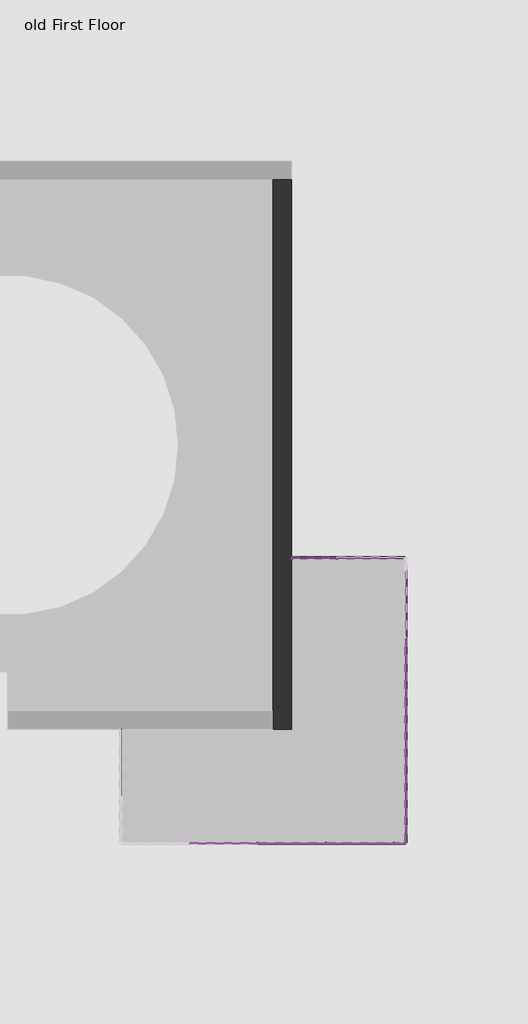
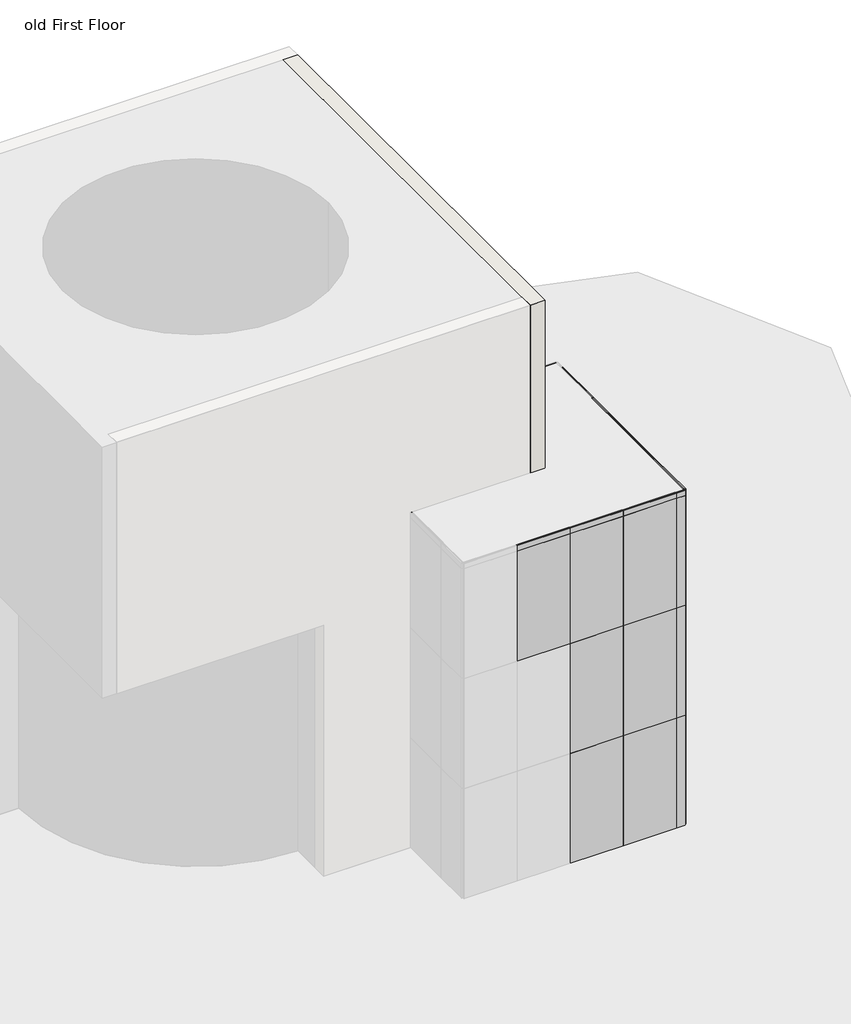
# One storey, part 2 of 4: 89 members, 35 plates, 1 wall.
"""IFC4 building model written with IfcOpenShell, lengths in millimetres."""

from ifc_helpers import new_model, si_unit, origin, place, context, project, spatial, faceted_brep, transform, mapped, element, save
from components import member_159572b0, member_653015da, member_2a641000, member_559eaf3f, member_582f46e3, member_ecc72e92, member_f3435ee7, member_a0b1ebc8, member_e916581d, member_8d5cdd9e, member_e2275742, member_baf210a9, system_panel_glazed_055f5726, system_panel_glazed_f85f85f2, system_panel_glazed_14487ba2, system_panel_glazed_56128400, system_panel_glazed_75032e0c, system_panel_glazed_306a2926

model = new_model("IFC4")

# Units and contexts
model_context = context("Model", 3, world=origin())
ifc_project = project(units=[si_unit("LENGTHUNIT", "METRE", prefix="MILLI")], contexts=[model_context])

# Site, building, storey
site = spatial("IfcSite", under=ifc_project)
building = spatial("IfcBuilding", under=site)
storey = spatial("IfcBuildingStorey", under=building, Name="old First Floor", Elevation=0.0)

# Members
placement = place(None, origin())
member_shape = member_159572b0(model_context)
element("IfcMember", 1, ObjectType="Rectangular Mullion : 1\" Square", at=placement, inside=storey, context=model_context, shape_type="MappedRepresentation", body=[
    mapped(member_shape, transform((10331.4955952, -10988.1148653, 12192.0), x_axis=(0.0, 0.0, 1.0), y_axis=(0.0, -1.0, 0.0), z_axis=(1.0, 0.0, 0.0))),
])
member_2_shape = member_653015da(model_context)
element("IfcMember", 2, ObjectType="Rectangular Mullion : 1\" Square", at=placement, inside=storey, context=model_context, shape_type="MappedRepresentation", body=[
    mapped(member_2_shape, transform((2736.8955952, -7965.5148653, 0.0), x_axis=(0.0, 0.0, -1.0), y_axis=(-1.0, 0.0, 0.0), z_axis=(0.0, 1.0, 0.0))),
])
element("IfcMember", 3, ObjectType="Rectangular Mullion : 1\" Square", at=placement, inside=storey, context=model_context, shape_type="MappedRepresentation", body=[
    mapped(member_2_shape, transform((10356.8955952, -10962.7148653, 0.0), x_axis=(0.0, 0.0, -1.0), y_axis=(1.0, 0.0, 0.0), z_axis=(0.0, -1.0, 0.0))),
])
member_3_shape = member_2a641000(model_context)
element("IfcMember", 4, ObjectType="Rectangular Mullion : 1\" Square", at=placement, inside=storey, context=model_context, shape_type="MappedRepresentation", body=[
    mapped(member_3_shape, transform((6396.8955952, -10988.1148653, 0.0), x_axis=(1.0, 0.0, 0.0), y_axis=(0.0, -1.0, 0.0), z_axis=(0.0, 0.0, -1.0))),
])
element("IfcMember", 5, ObjectType="Rectangular Mullion : 1\" Square", at=placement, inside=storey, context=model_context, shape_type="MappedRepresentation", body=[
    mapped(member_3_shape, transform((8226.8955952, -10988.1148653, 0.0), x_axis=(1.0, 0.0, 0.0), y_axis=(0.0, -1.0, 0.0), z_axis=(0.0, 0.0, -1.0))),
])
element("IfcMember", 6, ObjectType="Rectangular Mullion : 1\" Square", at=placement, inside=storey, context=model_context, shape_type="MappedRepresentation", body=[
    mapped(member_3_shape, transform((10056.8955952, -10988.1148653, 0.0), x_axis=(1.0, 0.0, 0.0), y_axis=(0.0, -1.0, 0.0), z_axis=(0.0, 0.0, -1.0))),
])
element("IfcMember", 7, ObjectType="Rectangular Mullion : 1\" Square", at=placement, inside=storey, context=model_context, shape_type="MappedRepresentation", body=[
    mapped(member_3_shape, transform((10356.8955952, -9158.1148653, 0.0), x_axis=(0.0, 1.0, 0.0), y_axis=(1.0, 0.0, 0.0), z_axis=(0.0, 0.0, -1.0))),
])
element("IfcMember", 8, ObjectType="Rectangular Mullion : 1\" Square", at=placement, inside=storey, context=model_context, shape_type="MappedRepresentation", body=[
    mapped(member_3_shape, transform((10356.8955952, -7328.1148653, 0.0), x_axis=(0.0, 1.0, 0.0), y_axis=(1.0, 0.0, 0.0), z_axis=(0.0, 0.0, -1.0))),
])
element("IfcMember", 9, ObjectType="Rectangular Mullion : 1\" Square", at=placement, inside=storey, context=model_context, shape_type="MappedRepresentation", body=[
    mapped(member_3_shape, transform((10356.8955952, -5498.1148653, 0.0), x_axis=(0.0, 1.0, 0.0), y_axis=(1.0, 0.0, 0.0), z_axis=(0.0, 0.0, -1.0))),
])
element("IfcMember", 10, ObjectType="Rectangular Mullion : 1\" Square", at=placement, inside=storey, context=model_context, shape_type="MappedRepresentation", body=[
    mapped(member_3_shape, transform((8526.8955952, -3368.1148653, 0.0), x_axis=(-1.0, 0.0, 0.0), y_axis=(0.0, 1.0, 0.0), z_axis=(0.0, 0.0, -1.0))),
])
member_4_shape = member_559eaf3f(model_context)
element("IfcMember", 11, ObjectType="Rectangular Mullion : 1\" Square", at=placement, inside=storey, context=model_context, shape_type="MappedRepresentation", body=[
    mapped(member_4_shape, transform((10356.8955952, -9170.8148653, 4000.0), x_axis=(0.0, 0.0, 1.0), y_axis=(1.0, 0.0, 0.0), z_axis=(0.0, 1.0, 0.0))),
])
element("IfcMember", 12, ObjectType="Rectangular Mullion : 1\" Square", at=placement, inside=storey, context=model_context, shape_type="MappedRepresentation", body=[
    mapped(member_4_shape, transform((10356.8955952, -9170.8148653, 8000.0), x_axis=(0.0, 0.0, 1.0), y_axis=(1.0, 0.0, 0.0), z_axis=(0.0, 1.0, 0.0))),
])
element("IfcMember", 13, ObjectType="Rectangular Mullion : 1\" Square", at=placement, inside=storey, context=model_context, shape_type="MappedRepresentation", body=[
    mapped(member_4_shape, transform((10356.8955952, -9170.8148653, 12000.0), x_axis=(0.0, 0.0, 1.0), y_axis=(1.0, 0.0, 0.0), z_axis=(0.0, 1.0, 0.0))),
])
element("IfcMember", 14, ObjectType="Rectangular Mullion : 1\" Square", at=placement, inside=storey, context=model_context, shape_type="MappedRepresentation", body=[
    mapped(member_4_shape, transform((8539.5955952, -3368.1148653, 4000.0), x_axis=(0.0, 0.0, 1.0), y_axis=(0.0, 1.0, 0.0), z_axis=(-1.0, 0.0, 0.0))),
])
element("IfcMember", 15, ObjectType="Rectangular Mullion : 1\" Square", at=placement, inside=storey, context=model_context, shape_type="MappedRepresentation", body=[
    mapped(member_4_shape, transform((8539.5955952, -3368.1148653, 8000.0), x_axis=(0.0, 0.0, 1.0), y_axis=(0.0, 1.0, 0.0), z_axis=(-1.0, 0.0, 0.0))),
])
element("IfcMember", 16, ObjectType="Rectangular Mullion : 1\" Square", at=placement, inside=storey, context=model_context, shape_type="MappedRepresentation", body=[
    mapped(member_4_shape, transform((8539.5955952, -3368.1148653, 12000.0), x_axis=(0.0, 0.0, 1.0), y_axis=(0.0, 1.0, 0.0), z_axis=(-1.0, 0.0, 0.0))),
])
member_5_shape = member_582f46e3(model_context)
element("IfcMember", 17, ObjectType="Rectangular Mullion : 1\" Square", at=placement, inside=storey, context=model_context, shape_type="MappedRepresentation", body=[
    mapped(member_5_shape, transform((6384.1955952, -10988.1148653, 4000.0), x_axis=(0.0, 0.0, 1.0), y_axis=(0.0, -1.0, 0.0), z_axis=(1.0, 0.0, 0.0))),
])
element("IfcMember", 18, ObjectType="Rectangular Mullion : 1\" Square", at=placement, inside=storey, context=model_context, shape_type="MappedRepresentation", body=[
    mapped(member_5_shape, transform((8214.1955952, -10988.1148653, 4000.0), x_axis=(0.0, 0.0, 1.0), y_axis=(0.0, -1.0, 0.0), z_axis=(1.0, 0.0, 0.0))),
])
element("IfcMember", 19, ObjectType="Rectangular Mullion : 1\" Square", at=placement, inside=storey, context=model_context, shape_type="MappedRepresentation", body=[
    mapped(member_5_shape, transform((10044.1955952, -10988.1148653, 4000.0), x_axis=(0.0, 0.0, 1.0), y_axis=(0.0, -1.0, 0.0), z_axis=(1.0, 0.0, 0.0))),
])
element("IfcMember", 20, ObjectType="Rectangular Mullion : 1\" Square", at=placement, inside=storey, context=model_context, shape_type="MappedRepresentation", body=[
    mapped(member_5_shape, transform((6384.1955952, -10988.1148653, 8000.0), x_axis=(0.0, 0.0, 1.0), y_axis=(0.0, -1.0, 0.0), z_axis=(1.0, 0.0, 0.0))),
])
element("IfcMember", 21, ObjectType="Rectangular Mullion : 1\" Square", at=placement, inside=storey, context=model_context, shape_type="MappedRepresentation", body=[
    mapped(member_5_shape, transform((8214.1955952, -10988.1148653, 8000.0), x_axis=(0.0, 0.0, 1.0), y_axis=(0.0, -1.0, 0.0), z_axis=(1.0, 0.0, 0.0))),
])
element("IfcMember", 22, ObjectType="Rectangular Mullion : 1\" Square", at=placement, inside=storey, context=model_context, shape_type="MappedRepresentation", body=[
    mapped(member_5_shape, transform((10044.1955952, -10988.1148653, 8000.0), x_axis=(0.0, 0.0, 1.0), y_axis=(0.0, -1.0, 0.0), z_axis=(1.0, 0.0, 0.0))),
])
element("IfcMember", 23, ObjectType="Rectangular Mullion : 1\" Square", at=placement, inside=storey, context=model_context, shape_type="MappedRepresentation", body=[
    mapped(member_5_shape, transform((6384.1955952, -10988.1148653, 12000.0), x_axis=(0.0, 0.0, 1.0), y_axis=(0.0, -1.0, 0.0), z_axis=(1.0, 0.0, 0.0))),
])
element("IfcMember", 24, ObjectType="Rectangular Mullion : 1\" Square", at=placement, inside=storey, context=model_context, shape_type="MappedRepresentation", body=[
    mapped(member_5_shape, transform((8214.1955952, -10988.1148653, 12000.0), x_axis=(0.0, 0.0, 1.0), y_axis=(0.0, -1.0, 0.0), z_axis=(1.0, 0.0, 0.0))),
])
element("IfcMember", 25, ObjectType="Rectangular Mullion : 1\" Square", at=placement, inside=storey, context=model_context, shape_type="MappedRepresentation", body=[
    mapped(member_5_shape, transform((10044.1955952, -10988.1148653, 12000.0), x_axis=(0.0, 0.0, 1.0), y_axis=(0.0, -1.0, 0.0), z_axis=(1.0, 0.0, 0.0))),
])
element("IfcMember", 26, ObjectType="Rectangular Mullion : 1\" Square", at=placement, inside=storey, context=model_context, shape_type="MappedRepresentation", body=[
    mapped(member_5_shape, transform((10356.8955952, -7340.8148653, 4000.0), x_axis=(0.0, 0.0, 1.0), y_axis=(1.0, 0.0, 0.0), z_axis=(0.0, 1.0, 0.0))),
])
element("IfcMember", 27, ObjectType="Rectangular Mullion : 1\" Square", at=placement, inside=storey, context=model_context, shape_type="MappedRepresentation", body=[
    mapped(member_5_shape, transform((10356.8955952, -5510.8148653, 4000.0), x_axis=(0.0, 0.0, 1.0), y_axis=(1.0, 0.0, 0.0), z_axis=(0.0, 1.0, 0.0))),
])
element("IfcMember", 28, ObjectType="Rectangular Mullion : 1\" Square", at=placement, inside=storey, context=model_context, shape_type="MappedRepresentation", body=[
    mapped(member_5_shape, transform((10356.8955952, -7340.8148653, 8000.0), x_axis=(0.0, 0.0, 1.0), y_axis=(1.0, 0.0, 0.0), z_axis=(0.0, 1.0, 0.0))),
])
element("IfcMember", 29, ObjectType="Rectangular Mullion : 1\" Square", at=placement, inside=storey, context=model_context, shape_type="MappedRepresentation", body=[
    mapped(member_5_shape, transform((10356.8955952, -5510.8148653, 8000.0), x_axis=(0.0, 0.0, 1.0), y_axis=(1.0, 0.0, 0.0), z_axis=(0.0, 1.0, 0.0))),
])
element("IfcMember", 30, ObjectType="Rectangular Mullion : 1\" Square", at=placement, inside=storey, context=model_context, shape_type="MappedRepresentation", body=[
    mapped(member_5_shape, transform((10356.8955952, -7340.8148653, 12000.0), x_axis=(0.0, 0.0, 1.0), y_axis=(1.0, 0.0, 0.0), z_axis=(0.0, 1.0, 0.0))),
])
element("IfcMember", 31, ObjectType="Rectangular Mullion : 1\" Square", at=placement, inside=storey, context=model_context, shape_type="MappedRepresentation", body=[
    mapped(member_5_shape, transform((10356.8955952, -5510.8148653, 12000.0), x_axis=(0.0, 0.0, 1.0), y_axis=(1.0, 0.0, 0.0), z_axis=(0.0, 1.0, 0.0))),
])
member_6_shape = member_ecc72e92(model_context)
element("IfcMember", 32, ObjectType="Rectangular Mullion : 1\" Square", at=placement, inside=storey, context=model_context, shape_type="MappedRepresentation", body=[
    mapped(member_6_shape, transform((10331.4955952, -10988.1148653, 4000.0), x_axis=(0.0, 0.0, 1.0), y_axis=(0.0, -1.0, 0.0), z_axis=(1.0, 0.0, 0.0))),
])
element("IfcMember", 33, ObjectType="Rectangular Mullion : 1\" Square", at=placement, inside=storey, context=model_context, shape_type="MappedRepresentation", body=[
    mapped(member_6_shape, transform((10331.4955952, -10988.1148653, 8000.0), x_axis=(0.0, 0.0, 1.0), y_axis=(0.0, -1.0, 0.0), z_axis=(1.0, 0.0, 0.0))),
])
element("IfcMember", 34, ObjectType="Rectangular Mullion : 1\" Square", at=placement, inside=storey, context=model_context, shape_type="MappedRepresentation", body=[
    mapped(member_6_shape, transform((10331.4955952, -10988.1148653, 12000.0), x_axis=(0.0, 0.0, 1.0), y_axis=(0.0, -1.0, 0.0), z_axis=(1.0, 0.0, 0.0))),
])
member_7_shape = member_f3435ee7(model_context)
element("IfcMember", 35, ObjectType="Rectangular Mullion : 1\" Square", at=placement, inside=storey, context=model_context, shape_type="MappedRepresentation", body=[
    mapped(member_7_shape, transform((6409.5955952, -10988.1148653, 0.0), x_axis=(0.0, 0.0, -1.0), y_axis=(0.0, -1.0, 0.0), z_axis=(-1.0, 0.0, 0.0))),
])
element("IfcMember", 36, ObjectType="Rectangular Mullion : 1\" Square", at=placement, inside=storey, context=model_context, shape_type="MappedRepresentation", body=[
    mapped(member_7_shape, transform((8239.5955952, -10988.1148653, 0.0), x_axis=(0.0, 0.0, -1.0), y_axis=(0.0, -1.0, 0.0), z_axis=(-1.0, 0.0, 0.0))),
])
element("IfcMember", 37, ObjectType="Rectangular Mullion : 1\" Square", at=placement, inside=storey, context=model_context, shape_type="MappedRepresentation", body=[
    mapped(member_7_shape, transform((10356.8955952, -9145.4148653, 0.0), x_axis=(0.0, 0.0, -1.0), y_axis=(1.0, 0.0, 0.0), z_axis=(0.0, -1.0, 0.0))),
])
element("IfcMember", 38, ObjectType="Rectangular Mullion : 1\" Square", at=placement, inside=storey, context=model_context, shape_type="MappedRepresentation", body=[
    mapped(member_7_shape, transform((10356.8955952, -7315.4148653, 0.0), x_axis=(0.0, 0.0, -1.0), y_axis=(1.0, 0.0, 0.0), z_axis=(0.0, -1.0, 0.0))),
])
element("IfcMember", 39, ObjectType="Rectangular Mullion : 1\" Square", at=placement, inside=storey, context=model_context, shape_type="MappedRepresentation", body=[
    mapped(member_7_shape, transform((10356.8955952, -5485.4148653, 0.0), x_axis=(0.0, 0.0, -1.0), y_axis=(1.0, 0.0, 0.0), z_axis=(0.0, -1.0, 0.0))),
])
element("IfcMember", 40, ObjectType="Rectangular Mullion : 1\" Square", at=placement, inside=storey, context=model_context, shape_type="MappedRepresentation", body=[
    mapped(member_shape, transform((10069.5955952, -10988.1148653, 0.0), x_axis=(0.0, 0.0, -1.0), y_axis=(0.0, -1.0, 0.0), z_axis=(-1.0, 0.0, 0.0))),
])
element("IfcMember", 41, ObjectType="Rectangular Mullion : 1\" Square", at=placement, inside=storey, context=model_context, shape_type="MappedRepresentation", body=[
    mapped(member_2_shape, transform((10356.8955952, -9170.8148653, 12192.0), x_axis=(0.0, 0.0, 1.0), y_axis=(1.0, 0.0, 0.0), z_axis=(0.0, 1.0, 0.0))),
])
element("IfcMember", 42, ObjectType="Rectangular Mullion : 1\" Square", at=placement, inside=storey, context=model_context, shape_type="MappedRepresentation", body=[
    mapped(member_2_shape, transform((8539.5955952, -3368.1148653, 12192.0), x_axis=(0.0, 0.0, 1.0), y_axis=(0.0, 1.0, 0.0), z_axis=(-1.0, 0.0, 0.0))),
])
element("IfcMember", 43, ObjectType="Rectangular Mullion : 1\" Square", at=placement, inside=storey, context=model_context, shape_type="MappedRepresentation", body=[
    mapped(member_7_shape, transform((6384.1955952, -10988.1148653, 12192.0), x_axis=(0.0, 0.0, 1.0), y_axis=(0.0, -1.0, 0.0), z_axis=(1.0, 0.0, 0.0))),
])
element("IfcMember", 44, ObjectType="Rectangular Mullion : 1\" Square", at=placement, inside=storey, context=model_context, shape_type="MappedRepresentation", body=[
    mapped(member_7_shape, transform((8214.1955952, -10988.1148653, 12192.0), x_axis=(0.0, 0.0, 1.0), y_axis=(0.0, -1.0, 0.0), z_axis=(1.0, 0.0, 0.0))),
])
element("IfcMember", 45, ObjectType="Rectangular Mullion : 1\" Square", at=placement, inside=storey, context=model_context, shape_type="MappedRepresentation", body=[
    mapped(member_7_shape, transform((10044.1955952, -10988.1148653, 12192.0), x_axis=(0.0, 0.0, 1.0), y_axis=(0.0, -1.0, 0.0), z_axis=(1.0, 0.0, 0.0))),
])
element("IfcMember", 46, ObjectType="Rectangular Mullion : 1\" Square", at=placement, inside=storey, context=model_context, shape_type="MappedRepresentation", body=[
    mapped(member_7_shape, transform((10356.8955952, -7340.8148653, 12192.0), x_axis=(0.0, 0.0, 1.0), y_axis=(1.0, 0.0, 0.0), z_axis=(0.0, 1.0, 0.0))),
])
element("IfcMember", 47, ObjectType="Rectangular Mullion : 1\" Square", at=placement, inside=storey, context=model_context, shape_type="MappedRepresentation", body=[
    mapped(member_7_shape, transform((10356.8955952, -5510.8148653, 12192.0), x_axis=(0.0, 0.0, 1.0), y_axis=(1.0, 0.0, 0.0), z_axis=(0.0, 1.0, 0.0))),
])
element("IfcMember", 48, ObjectType="Rectangular Mullion : 1\" Square", at=placement, inside=storey, context=model_context, shape_type="MappedRepresentation", body=[
    mapped(member_3_shape, transform((6396.8955952, -10988.1148653, 4000.0), x_axis=(1.0, 0.0, 0.0), y_axis=(0.0, -1.0, 0.0), z_axis=(0.0, 0.0, -1.0))),
])
element("IfcMember", 49, ObjectType="Rectangular Mullion : 1\" Square", at=placement, inside=storey, context=model_context, shape_type="MappedRepresentation", body=[
    mapped(member_3_shape, transform((6396.8955952, -10988.1148653, 8000.0), x_axis=(1.0, 0.0, 0.0), y_axis=(0.0, -1.0, 0.0), z_axis=(0.0, 0.0, -1.0))),
])
element("IfcMember", 50, ObjectType="Rectangular Mullion : 1\" Square", at=placement, inside=storey, context=model_context, shape_type="MappedRepresentation", body=[
    mapped(member_3_shape, transform((8226.8955952, -10988.1148653, 4000.0), x_axis=(1.0, 0.0, 0.0), y_axis=(0.0, -1.0, 0.0), z_axis=(0.0, 0.0, -1.0))),
])
element("IfcMember", 51, ObjectType="Rectangular Mullion : 1\" Square", at=placement, inside=storey, context=model_context, shape_type="MappedRepresentation", body=[
    mapped(member_3_shape, transform((8226.8955952, -10988.1148653, 8000.0), x_axis=(1.0, 0.0, 0.0), y_axis=(0.0, -1.0, 0.0), z_axis=(0.0, 0.0, -1.0))),
])
element("IfcMember", 52, ObjectType="Rectangular Mullion : 1\" Square", at=placement, inside=storey, context=model_context, shape_type="MappedRepresentation", body=[
    mapped(member_3_shape, transform((10056.8955952, -10988.1148653, 4000.0), x_axis=(1.0, 0.0, 0.0), y_axis=(0.0, -1.0, 0.0), z_axis=(0.0, 0.0, -1.0))),
])
element("IfcMember", 53, ObjectType="Rectangular Mullion : 1\" Square", at=placement, inside=storey, context=model_context, shape_type="MappedRepresentation", body=[
    mapped(member_3_shape, transform((10056.8955952, -10988.1148653, 8000.0), x_axis=(1.0, 0.0, 0.0), y_axis=(0.0, -1.0, 0.0), z_axis=(0.0, 0.0, -1.0))),
])
element("IfcMember", 54, ObjectType="Rectangular Mullion : 1\" Square", at=placement, inside=storey, context=model_context, shape_type="MappedRepresentation", body=[
    mapped(member_3_shape, transform((10356.8955952, -9158.1148653, 4000.0), x_axis=(0.0, 1.0, 0.0), y_axis=(1.0, 0.0, 0.0), z_axis=(0.0, 0.0, -1.0))),
])
element("IfcMember", 55, ObjectType="Rectangular Mullion : 1\" Square", at=placement, inside=storey, context=model_context, shape_type="MappedRepresentation", body=[
    mapped(member_3_shape, transform((10356.8955952, -9158.1148653, 8000.0), x_axis=(0.0, 1.0, 0.0), y_axis=(1.0, 0.0, 0.0), z_axis=(0.0, 0.0, -1.0))),
])
element("IfcMember", 56, ObjectType="Rectangular Mullion : 1\" Square", at=placement, inside=storey, context=model_context, shape_type="MappedRepresentation", body=[
    mapped(member_3_shape, transform((10356.8955952, -7328.1148653, 4000.0), x_axis=(0.0, 1.0, 0.0), y_axis=(1.0, 0.0, 0.0), z_axis=(0.0, 0.0, -1.0))),
])
element("IfcMember", 57, ObjectType="Rectangular Mullion : 1\" Square", at=placement, inside=storey, context=model_context, shape_type="MappedRepresentation", body=[
    mapped(member_3_shape, transform((10356.8955952, -7328.1148653, 8000.0), x_axis=(0.0, 1.0, 0.0), y_axis=(1.0, 0.0, 0.0), z_axis=(0.0, 0.0, -1.0))),
])
element("IfcMember", 58, ObjectType="Rectangular Mullion : 1\" Square", at=placement, inside=storey, context=model_context, shape_type="MappedRepresentation", body=[
    mapped(member_3_shape, transform((10356.8955952, -5498.1148653, 4000.0), x_axis=(0.0, 1.0, 0.0), y_axis=(1.0, 0.0, 0.0), z_axis=(0.0, 0.0, -1.0))),
])
element("IfcMember", 59, ObjectType="Rectangular Mullion : 1\" Square", at=placement, inside=storey, context=model_context, shape_type="MappedRepresentation", body=[
    mapped(member_3_shape, transform((10356.8955952, -5498.1148653, 8000.0), x_axis=(0.0, 1.0, 0.0), y_axis=(1.0, 0.0, 0.0), z_axis=(0.0, 0.0, -1.0))),
])
element("IfcMember", 60, ObjectType="Rectangular Mullion : 1\" Square", at=placement, inside=storey, context=model_context, shape_type="MappedRepresentation", body=[
    mapped(member_3_shape, transform((8526.8955952, -3368.1148653, 4000.0), x_axis=(-1.0, 0.0, 0.0), y_axis=(0.0, 1.0, 0.0), z_axis=(0.0, 0.0, -1.0))),
])
element("IfcMember", 61, ObjectType="Rectangular Mullion : 1\" Square", at=placement, inside=storey, context=model_context, shape_type="MappedRepresentation", body=[
    mapped(member_3_shape, transform((8526.8955952, -3368.1148653, 8000.0), x_axis=(-1.0, 0.0, 0.0), y_axis=(0.0, 1.0, 0.0), z_axis=(0.0, 0.0, -1.0))),
])
member_8_shape = member_a0b1ebc8(model_context)
element("IfcMember", 62, ObjectType="Rectangular Mullion : 1\" Square", at=placement, inside=storey, context=model_context, shape_type="MappedRepresentation", body=[
    mapped(member_8_shape, transform((6396.8955952, -10988.1148653, 12000.0), x_axis=(1.0, 0.0, 0.0), y_axis=(0.0, -1.0, 0.0), z_axis=(0.0, 0.0, -1.0))),
])
element("IfcMember", 63, ObjectType="Rectangular Mullion : 1\" Square", at=placement, inside=storey, context=model_context, shape_type="MappedRepresentation", body=[
    mapped(member_8_shape, transform((8226.8955952, -10988.1148653, 12000.0), x_axis=(1.0, 0.0, 0.0), y_axis=(0.0, -1.0, 0.0), z_axis=(0.0, 0.0, -1.0))),
])
element("IfcMember", 64, ObjectType="Rectangular Mullion : 1\" Square", at=placement, inside=storey, context=model_context, shape_type="MappedRepresentation", body=[
    mapped(member_8_shape, transform((10056.8955952, -10988.1148653, 12000.0), x_axis=(1.0, 0.0, 0.0), y_axis=(0.0, -1.0, 0.0), z_axis=(0.0, 0.0, -1.0))),
])
element("IfcMember", 65, ObjectType="Rectangular Mullion : 1\" Square", at=placement, inside=storey, context=model_context, shape_type="MappedRepresentation", body=[
    mapped(member_8_shape, transform((10356.8955952, -9158.1148653, 12000.0), x_axis=(0.0, 1.0, 0.0), y_axis=(1.0, 0.0, 0.0), z_axis=(0.0, 0.0, -1.0))),
])
element("IfcMember", 66, ObjectType="Rectangular Mullion : 1\" Square", at=placement, inside=storey, context=model_context, shape_type="MappedRepresentation", body=[
    mapped(member_8_shape, transform((10356.8955952, -7328.1148653, 12000.0), x_axis=(0.0, 1.0, 0.0), y_axis=(1.0, 0.0, 0.0), z_axis=(0.0, 0.0, -1.0))),
])
element("IfcMember", 67, ObjectType="Rectangular Mullion : 1\" Square", at=placement, inside=storey, context=model_context, shape_type="MappedRepresentation", body=[
    mapped(member_8_shape, transform((10356.8955952, -5498.1148653, 12000.0), x_axis=(0.0, 1.0, 0.0), y_axis=(1.0, 0.0, 0.0), z_axis=(0.0, 0.0, -1.0))),
])
element("IfcMember", 68, ObjectType="Rectangular Mullion : 1\" Square", at=placement, inside=storey, context=model_context, shape_type="MappedRepresentation", body=[
    mapped(member_8_shape, transform((8526.8955952, -3368.1148653, 12000.0), x_axis=(-1.0, 0.0, 0.0), y_axis=(0.0, 1.0, 0.0), z_axis=(0.0, 0.0, -1.0))),
])
member_9_shape = member_e916581d(model_context)
element("IfcMember", 69, ObjectType="Rectangular Mullion : 1\" Square", at=placement, inside=storey, context=model_context, shape_type="MappedRepresentation", body=[
    mapped(member_9_shape, transform((7334.2955952, -3368.1148653, 12192.0), x_axis=(0.0, 0.0, 1.0), y_axis=(0.0, 1.0, 0.0), z_axis=(-1.0, 0.0, 0.0))),
])
member_10_shape = member_8d5cdd9e(model_context)
element("IfcMember", 70, ObjectType="Rectangular Mullion : 1\" Square", at=placement, inside=storey, context=model_context, shape_type="MappedRepresentation", body=[
    mapped(member_10_shape, transform((7334.2955952, -3368.1148653, 4000.0), x_axis=(0.0, 0.0, 1.0), y_axis=(0.0, 1.0, 0.0), z_axis=(-1.0, 0.0, 0.0))),
])
element("IfcMember", 71, ObjectType="Rectangular Mullion : 1\" Square", at=placement, inside=storey, context=model_context, shape_type="MappedRepresentation", body=[
    mapped(member_10_shape, transform((7334.2955952, -3368.1148653, 8000.0), x_axis=(0.0, 0.0, 1.0), y_axis=(0.0, 1.0, 0.0), z_axis=(-1.0, 0.0, 0.0))),
])
element("IfcMember", 72, ObjectType="Rectangular Mullion : 1\" Square", at=placement, inside=storey, context=model_context, shape_type="MappedRepresentation", body=[
    mapped(member_10_shape, transform((7334.2955952, -3368.1148653, 12000.0), x_axis=(0.0, 0.0, 1.0), y_axis=(0.0, 1.0, 0.0), z_axis=(-1.0, 0.0, 0.0))),
])
element("IfcMember", 73, ObjectType="Rectangular Mullion : 1\" Square", at=placement, inside=storey, context=model_context, shape_type="MappedRepresentation", body=[
    mapped(member_9_shape, transform((8514.1955952, -3368.1148653, 0.0), x_axis=(0.0, 0.0, -1.0), y_axis=(0.0, 1.0, 0.0), z_axis=(1.0, 0.0, 0.0))),
])
member_11_shape = member_e2275742(model_context)
element("IfcMember", 74, ObjectType="Rectangular Mullion : 1\" Square", at=placement, inside=storey, context=model_context, shape_type="MappedRepresentation", body=[
    mapped(member_11_shape, transform((10356.8955952, -10988.1148653, 0.0), x_axis=(1.0, 0.0, 0.0), y_axis=(0.0, -1.0, 0.0), z_axis=(0.0, 0.0, -1.0))),
])
element("IfcMember", 75, ObjectType="Rectangular Mullion : 1\" Square", at=placement, inside=storey, context=model_context, shape_type="MappedRepresentation", body=[
    mapped(member_11_shape, transform((7308.8955952, -3368.1148653, 0.0), x_axis=(-1.0, 0.0, 0.0), y_axis=(0.0, 1.0, 0.0), z_axis=(0.0, 0.0, -1.0))),
])
element("IfcMember", 76, ObjectType="Rectangular Mullion : 1\" Square", at=placement, inside=storey, context=model_context, shape_type="MappedRepresentation", body=[
    mapped(member_11_shape, transform((2736.8955952, -7940.1148653, 4000.0), x_axis=(0.0, 1.0, 0.0), y_axis=(-1.0, 0.0, 0.0), z_axis=(0.0, 0.0, 1.0))),
])
element("IfcMember", 77, ObjectType="Rectangular Mullion : 1\" Square", at=placement, inside=storey, context=model_context, shape_type="MappedRepresentation", body=[
    mapped(member_11_shape, transform((10356.8955952, -10988.1148653, 4000.0), x_axis=(0.0, -1.0, 0.0), y_axis=(1.0, 0.0, 0.0), z_axis=(0.0, 0.0, 1.0))),
])
element("IfcMember", 78, ObjectType="Rectangular Mullion : 1\" Square", at=placement, inside=storey, context=model_context, shape_type="MappedRepresentation", body=[
    mapped(member_11_shape, transform((2736.8955952, -7940.1148653, 8000.0), x_axis=(0.0, 1.0, 0.0), y_axis=(-1.0, 0.0, 0.0), z_axis=(0.0, 0.0, 1.0))),
])
element("IfcMember", 79, ObjectType="Rectangular Mullion : 1\" Square", at=placement, inside=storey, context=model_context, shape_type="MappedRepresentation", body=[
    mapped(member_11_shape, transform((2736.8955952, -7940.1148653, 12000.0), x_axis=(0.0, 1.0, 0.0), y_axis=(-1.0, 0.0, 0.0), z_axis=(0.0, 0.0, 1.0))),
])
element("IfcMember", 80, ObjectType="Rectangular Mullion : 1\" Square", at=placement, inside=storey, context=model_context, shape_type="MappedRepresentation", body=[
    mapped(member_11_shape, transform((10356.8955952, -10988.1148653, 8000.0), x_axis=(0.0, -1.0, 0.0), y_axis=(1.0, 0.0, 0.0), z_axis=(0.0, 0.0, 1.0))),
])
element("IfcMember", 81, ObjectType="Rectangular Mullion : 1\" Square", at=placement, inside=storey, context=model_context, shape_type="MappedRepresentation", body=[
    mapped(member_11_shape, transform((10356.8955952, -10988.1148653, 12000.0), x_axis=(0.0, -1.0, 0.0), y_axis=(1.0, 0.0, 0.0), z_axis=(0.0, 0.0, 1.0))),
])
element("IfcMember", 82, ObjectType="Rectangular Mullion : 1\" Square", at=placement, inside=storey, context=model_context, shape_type="MappedRepresentation", body=[
    mapped(member_11_shape, transform((10356.8955952, -10988.1148653, 4000.0), x_axis=(1.0, 0.0, 0.0), y_axis=(0.0, -1.0, 0.0), z_axis=(0.0, 0.0, -1.0))),
])
element("IfcMember", 83, ObjectType="Rectangular Mullion : 1\" Square", at=placement, inside=storey, context=model_context, shape_type="MappedRepresentation", body=[
    mapped(member_11_shape, transform((10356.8955952, -10988.1148653, 8000.0), x_axis=(1.0, 0.0, 0.0), y_axis=(0.0, -1.0, 0.0), z_axis=(0.0, 0.0, -1.0))),
])
element("IfcMember", 84, ObjectType="Rectangular Mullion : 1\" Square", at=placement, inside=storey, context=model_context, shape_type="MappedRepresentation", body=[
    mapped(member_11_shape, transform((7308.8955952, -3368.1148653, 4000.0), x_axis=(-1.0, 0.0, 0.0), y_axis=(0.0, 1.0, 0.0), z_axis=(0.0, 0.0, -1.0))),
])
element("IfcMember", 85, ObjectType="Rectangular Mullion : 1\" Square", at=placement, inside=storey, context=model_context, shape_type="MappedRepresentation", body=[
    mapped(member_11_shape, transform((7308.8955952, -3368.1148653, 8000.0), x_axis=(-1.0, 0.0, 0.0), y_axis=(0.0, 1.0, 0.0), z_axis=(0.0, 0.0, -1.0))),
])
member_12_shape = member_baf210a9(model_context)
element("IfcMember", 86, ObjectType="Rectangular Mullion : 1\" Square", at=placement, inside=storey, context=model_context, shape_type="MappedRepresentation", body=[
    mapped(member_12_shape, transform((2736.8955952, -7940.1148653, 12192.0), x_axis=(0.0, 1.0, 0.0), y_axis=(-1.0, 0.0, 0.0), z_axis=(0.0, 0.0, 1.0))),
])
element("IfcMember", 87, ObjectType="Rectangular Mullion : 1\" Square", at=placement, inside=storey, context=model_context, shape_type="MappedRepresentation", body=[
    mapped(member_12_shape, transform((10356.8955952, -10988.1148653, 12192.0), x_axis=(0.0, -1.0, 0.0), y_axis=(1.0, 0.0, 0.0), z_axis=(0.0, 0.0, 1.0))),
])
element("IfcMember", 88, ObjectType="Rectangular Mullion : 1\" Square", at=placement, inside=storey, context=model_context, shape_type="MappedRepresentation", body=[
    mapped(member_12_shape, transform((10356.8955952, -10988.1148653, 12000.0), x_axis=(1.0, 0.0, 0.0), y_axis=(0.0, -1.0, 0.0), z_axis=(0.0, 0.0, -1.0))),
])
element("IfcMember", 89, ObjectType="Rectangular Mullion : 1\" Square", at=placement, inside=storey, context=model_context, shape_type="MappedRepresentation", body=[
    mapped(member_12_shape, transform((7308.8955952, -3368.1148653, 12000.0), x_axis=(-1.0, 0.0, 0.0), y_axis=(0.0, 1.0, 0.0), z_axis=(0.0, 0.0, -1.0))),
])

# Plates
system_panel_glazed_shape = system_panel_glazed_055f5726(model_context)
element("IfcPlate", 90, ObjectType="System Panel : Glazed", at=placement, inside=storey, context=model_context, shape_type="MappedRepresentation", body=[
    mapped(system_panel_glazed_shape, transform((7311.8955952, -10988.1148653, 0.0), x_axis=(1.0, 0.0, 0.0), y_axis=(0.0, 1.0, 0.0), z_axis=(0.0, 0.0, 1.0))),
])
element("IfcPlate", 91, ObjectType="System Panel : Glazed", at=placement, inside=storey, context=model_context, shape_type="MappedRepresentation", body=[
    mapped(system_panel_glazed_shape, transform((9141.8955952, -10988.1148653, 0.0), x_axis=(1.0, 0.0, 0.0), y_axis=(0.0, 1.0, 0.0), z_axis=(0.0, 0.0, 1.0))),
])
element("IfcPlate", 92, ObjectType="System Panel : Glazed", at=placement, inside=storey, context=model_context, shape_type="MappedRepresentation", body=[
    mapped(system_panel_glazed_shape, transform((7311.8955952, -10988.1148653, 4000.0), x_axis=(1.0, 0.0, 0.0), y_axis=(0.0, 1.0, 0.0), z_axis=(0.0, 0.0, 1.0))),
])
element("IfcPlate", 93, ObjectType="System Panel : Glazed", at=placement, inside=storey, context=model_context, shape_type="MappedRepresentation", body=[
    mapped(system_panel_glazed_shape, transform((9141.8955952, -10988.1148653, 4000.0), x_axis=(1.0, 0.0, 0.0), y_axis=(0.0, 1.0, 0.0), z_axis=(0.0, 0.0, 1.0))),
])
element("IfcPlate", 94, ObjectType="System Panel : Glazed", at=placement, inside=storey, context=model_context, shape_type="MappedRepresentation", body=[
    mapped(system_panel_glazed_shape, transform((5481.8955952, -10988.1148653, 8000.0), x_axis=(1.0, 0.0, 0.0), y_axis=(0.0, 1.0, 0.0), z_axis=(0.0, 0.0, 1.0))),
])
element("IfcPlate", 95, ObjectType="System Panel : Glazed", at=placement, inside=storey, context=model_context, shape_type="MappedRepresentation", body=[
    mapped(system_panel_glazed_shape, transform((7311.8955952, -10988.1148653, 8000.0), x_axis=(1.0, 0.0, 0.0), y_axis=(0.0, 1.0, 0.0), z_axis=(0.0, 0.0, 1.0))),
])
element("IfcPlate", 96, ObjectType="System Panel : Glazed", at=placement, inside=storey, context=model_context, shape_type="MappedRepresentation", body=[
    mapped(system_panel_glazed_shape, transform((9141.8955952, -10988.1148653, 8000.0), x_axis=(1.0, 0.0, 0.0), y_axis=(0.0, 1.0, 0.0), z_axis=(0.0, 0.0, 1.0))),
])
element("IfcPlate", 97, ObjectType="System Panel : Glazed", at=placement, inside=storey, context=model_context, shape_type="MappedRepresentation", body=[
    mapped(system_panel_glazed_shape, transform((10356.8955952, -10073.1148653, 0.0), x_axis=(0.0, 1.0, 0.0), y_axis=(-1.0, 0.0, 0.0), z_axis=(0.0, 0.0, 1.0))),
])
element("IfcPlate", 98, ObjectType="System Panel : Glazed", at=placement, inside=storey, context=model_context, shape_type="MappedRepresentation", body=[
    mapped(system_panel_glazed_shape, transform((10356.8955952, -8243.1148653, 0.0), x_axis=(0.0, 1.0, 0.0), y_axis=(-1.0, 0.0, 0.0), z_axis=(0.0, 0.0, 1.0))),
])
element("IfcPlate", 99, ObjectType="System Panel : Glazed", at=placement, inside=storey, context=model_context, shape_type="MappedRepresentation", body=[
    mapped(system_panel_glazed_shape, transform((10356.8955952, -6413.1148653, 0.0), x_axis=(0.0, 1.0, 0.0), y_axis=(-1.0, 0.0, 0.0), z_axis=(0.0, 0.0, 1.0))),
])
element("IfcPlate", 100, ObjectType="System Panel : Glazed", at=placement, inside=storey, context=model_context, shape_type="MappedRepresentation", body=[
    mapped(system_panel_glazed_shape, transform((10356.8955952, -4583.1148653, 0.0), x_axis=(0.0, 1.0, 0.0), y_axis=(-1.0, 0.0, 0.0), z_axis=(0.0, 0.0, 1.0))),
])
element("IfcPlate", 101, ObjectType="System Panel : Glazed", at=placement, inside=storey, context=model_context, shape_type="MappedRepresentation", body=[
    mapped(system_panel_glazed_shape, transform((10356.8955952, -10073.1148653, 4000.0), x_axis=(0.0, 1.0, 0.0), y_axis=(-1.0, 0.0, 0.0), z_axis=(0.0, 0.0, 1.0))),
])
element("IfcPlate", 102, ObjectType="System Panel : Glazed", at=placement, inside=storey, context=model_context, shape_type="MappedRepresentation", body=[
    mapped(system_panel_glazed_shape, transform((10356.8955952, -8243.1148653, 4000.0), x_axis=(0.0, 1.0, 0.0), y_axis=(-1.0, 0.0, 0.0), z_axis=(0.0, 0.0, 1.0))),
])
element("IfcPlate", 103, ObjectType="System Panel : Glazed", at=placement, inside=storey, context=model_context, shape_type="MappedRepresentation", body=[
    mapped(system_panel_glazed_shape, transform((10356.8955952, -6413.1148653, 4000.0), x_axis=(0.0, 1.0, 0.0), y_axis=(-1.0, 0.0, 0.0), z_axis=(0.0, 0.0, 1.0))),
])
element("IfcPlate", 104, ObjectType="System Panel : Glazed", at=placement, inside=storey, context=model_context, shape_type="MappedRepresentation", body=[
    mapped(system_panel_glazed_shape, transform((10356.8955952, -4583.1148653, 4000.0), x_axis=(0.0, 1.0, 0.0), y_axis=(-1.0, 0.0, 0.0), z_axis=(0.0, 0.0, 1.0))),
])
element("IfcPlate", 105, ObjectType="System Panel : Glazed", at=placement, inside=storey, context=model_context, shape_type="MappedRepresentation", body=[
    mapped(system_panel_glazed_shape, transform((10356.8955952, -10073.1148653, 8000.0), x_axis=(0.0, 1.0, 0.0), y_axis=(-1.0, 0.0, 0.0), z_axis=(0.0, 0.0, 1.0))),
])
element("IfcPlate", 106, ObjectType="System Panel : Glazed", at=placement, inside=storey, context=model_context, shape_type="MappedRepresentation", body=[
    mapped(system_panel_glazed_shape, transform((10356.8955952, -8243.1148653, 8000.0), x_axis=(0.0, 1.0, 0.0), y_axis=(-1.0, 0.0, 0.0), z_axis=(0.0, 0.0, 1.0))),
])
element("IfcPlate", 107, ObjectType="System Panel : Glazed", at=placement, inside=storey, context=model_context, shape_type="MappedRepresentation", body=[
    mapped(system_panel_glazed_shape, transform((10356.8955952, -6413.1148653, 8000.0), x_axis=(0.0, 1.0, 0.0), y_axis=(-1.0, 0.0, 0.0), z_axis=(0.0, 0.0, 1.0))),
])
element("IfcPlate", 108, ObjectType="System Panel : Glazed", at=placement, inside=storey, context=model_context, shape_type="MappedRepresentation", body=[
    mapped(system_panel_glazed_shape, transform((10356.8955952, -4583.1148653, 8000.0), x_axis=(0.0, 1.0, 0.0), y_axis=(-1.0, 0.0, 0.0), z_axis=(0.0, 0.0, 1.0))),
])
element("IfcPlate", 109, ObjectType="System Panel : Glazed", at=placement, inside=storey, context=model_context, shape_type="MappedRepresentation", body=[
    mapped(system_panel_glazed_shape, transform((9441.8955952, -3368.1148653, 0.0), x_axis=(-1.0, 0.0, 0.0), y_axis=(0.0, -1.0, 0.0), z_axis=(0.0, 0.0, 1.0))),
])
system_panel_glazed_2_shape = system_panel_glazed_f85f85f2(model_context)
element("IfcPlate", 110, ObjectType="System Panel : Glazed", at=placement, inside=storey, context=model_context, shape_type="MappedRepresentation", body=[
    mapped(system_panel_glazed_2_shape, transform((10206.8955952, -10988.1148653, 0.0), x_axis=(1.0, 0.0, 0.0), y_axis=(0.0, 1.0, 0.0), z_axis=(0.0, 0.0, 1.0))),
])
element("IfcPlate", 111, ObjectType="System Panel : Glazed", at=placement, inside=storey, context=model_context, shape_type="MappedRepresentation", body=[
    mapped(system_panel_glazed_2_shape, transform((10206.8955952, -10988.1148653, 4000.0), x_axis=(1.0, 0.0, 0.0), y_axis=(0.0, 1.0, 0.0), z_axis=(0.0, 0.0, 1.0))),
])
element("IfcPlate", 112, ObjectType="System Panel : Glazed", at=placement, inside=storey, context=model_context, shape_type="MappedRepresentation", body=[
    mapped(system_panel_glazed_2_shape, transform((10206.8955952, -10988.1148653, 8000.0), x_axis=(1.0, 0.0, 0.0), y_axis=(0.0, 1.0, 0.0), z_axis=(0.0, 0.0, 1.0))),
])
system_panel_glazed_3_shape = system_panel_glazed_14487ba2(model_context)
element("IfcPlate", 113, ObjectType="System Panel : Glazed", at=placement, inside=storey, context=model_context, shape_type="MappedRepresentation", body=[
    mapped(system_panel_glazed_3_shape, transform((5481.8955952, -10988.1148653, 12000.0), x_axis=(1.0, 0.0, 0.0), y_axis=(0.0, 1.0, 0.0), z_axis=(0.0, 0.0, 1.0))),
])
element("IfcPlate", 114, ObjectType="System Panel : Glazed", at=placement, inside=storey, context=model_context, shape_type="MappedRepresentation", body=[
    mapped(system_panel_glazed_3_shape, transform((7311.8955952, -10988.1148653, 12000.0), x_axis=(1.0, 0.0, 0.0), y_axis=(0.0, 1.0, 0.0), z_axis=(0.0, 0.0, 1.0))),
])
element("IfcPlate", 115, ObjectType="System Panel : Glazed", at=placement, inside=storey, context=model_context, shape_type="MappedRepresentation", body=[
    mapped(system_panel_glazed_3_shape, transform((9141.8955952, -10988.1148653, 12000.0), x_axis=(1.0, 0.0, 0.0), y_axis=(0.0, 1.0, 0.0), z_axis=(0.0, 0.0, 1.0))),
])
element("IfcPlate", 116, ObjectType="System Panel : Glazed", at=placement, inside=storey, context=model_context, shape_type="MappedRepresentation", body=[
    mapped(system_panel_glazed_3_shape, transform((10356.8955952, -10073.1148653, 12000.0), x_axis=(0.0, 1.0, 0.0), y_axis=(-1.0, 0.0, 0.0), z_axis=(0.0, 0.0, 1.0))),
])
element("IfcPlate", 117, ObjectType="System Panel : Glazed", at=placement, inside=storey, context=model_context, shape_type="MappedRepresentation", body=[
    mapped(system_panel_glazed_3_shape, transform((10356.8955952, -8243.1148653, 12000.0), x_axis=(0.0, 1.0, 0.0), y_axis=(-1.0, 0.0, 0.0), z_axis=(0.0, 0.0, 1.0))),
])
element("IfcPlate", 118, ObjectType="System Panel : Glazed", at=placement, inside=storey, context=model_context, shape_type="MappedRepresentation", body=[
    mapped(system_panel_glazed_3_shape, transform((10356.8955952, -6413.1148653, 12000.0), x_axis=(0.0, 1.0, 0.0), y_axis=(-1.0, 0.0, 0.0), z_axis=(0.0, 0.0, 1.0))),
])
element("IfcPlate", 119, ObjectType="System Panel : Glazed", at=placement, inside=storey, context=model_context, shape_type="MappedRepresentation", body=[
    mapped(system_panel_glazed_3_shape, transform((10356.8955952, -4583.1148653, 12000.0), x_axis=(0.0, 1.0, 0.0), y_axis=(-1.0, 0.0, 0.0), z_axis=(0.0, 0.0, 1.0))),
])
system_panel_glazed_4_shape = system_panel_glazed_56128400(model_context)
element("IfcPlate", 120, ObjectType="System Panel : Glazed", at=placement, inside=storey, context=model_context, shape_type="MappedRepresentation", body=[
    mapped(system_panel_glazed_4_shape, transform((10206.8955952, -10988.1148653, 12000.0), x_axis=(1.0, 0.0, 0.0), y_axis=(0.0, 1.0, 0.0), z_axis=(0.0, 0.0, 1.0))),
])
system_panel_glazed_5_shape = system_panel_glazed_75032e0c(model_context)
element("IfcPlate", 121, ObjectType="System Panel : Glazed", at=placement, inside=storey, context=model_context, shape_type="MappedRepresentation", body=[
    mapped(system_panel_glazed_5_shape, transform((7917.8955952, -3368.1148653, 0.0), x_axis=(-1.0, 0.0, 0.0), y_axis=(0.0, -1.0, 0.0), z_axis=(0.0, 0.0, 1.0))),
])
element("IfcPlate", 122, ObjectType="System Panel : Glazed", at=placement, inside=storey, context=model_context, shape_type="MappedRepresentation", body=[
    mapped(system_panel_glazed_5_shape, transform((7917.8955952, -3368.1148653, 4000.0), x_axis=(-1.0, 0.0, 0.0), y_axis=(0.0, -1.0, 0.0), z_axis=(0.0, 0.0, 1.0))),
])
element("IfcPlate", 123, ObjectType="System Panel : Glazed", at=placement, inside=storey, context=model_context, shape_type="MappedRepresentation", body=[
    mapped(system_panel_glazed_5_shape, transform((7917.8955952, -3368.1148653, 8000.0), x_axis=(-1.0, 0.0, 0.0), y_axis=(0.0, -1.0, 0.0), z_axis=(0.0, 0.0, 1.0))),
])
system_panel_glazed_6_shape = system_panel_glazed_306a2926(model_context)
element("IfcPlate", 124, ObjectType="System Panel : Glazed", at=placement, inside=storey, context=model_context, shape_type="MappedRepresentation", body=[
    mapped(system_panel_glazed_6_shape, transform((7917.8955952, -3368.1148653, 12000.0), x_axis=(-1.0, 0.0, 0.0), y_axis=(0.0, -1.0, 0.0), z_axis=(0.0, 0.0, 1.0))),
])

# Wall
element("IfcWall", 125, ObjectType="Exterior - Brick on CMU", at=placement, inside=storey, context=model_context, shape_type="Brep", body=[
    faceted_brep([(7308.8955952, -7940.1148653, 0.0), (7308.8955952, 6804.5851347, 0.0), (7308.8955952, 6804.5851347, 18288.0), (7308.8955952, -7940.1148653, 18288.0), (6813.5955952, -7940.1148653, 0.0), (6813.5955952, -7940.1148653, 18288.0), (6813.5955952, -7444.8148653, 18288.0), (6813.5955952, 6804.5851347, 18288.0), (6813.5955952, 6804.5851347, 0.0), (6813.5955952, -7444.8148653, 0.0)], [[[0, 1, 2, 3]], [[4, 5, 6, 7, 8, 9]], [[1, 0, 4, 9, 8]], [[3, 2, 7, 6, 5]], [[2, 1, 8, 7]], [[0, 3, 5, 4]]]),
])

save(model, "model.ifc")
